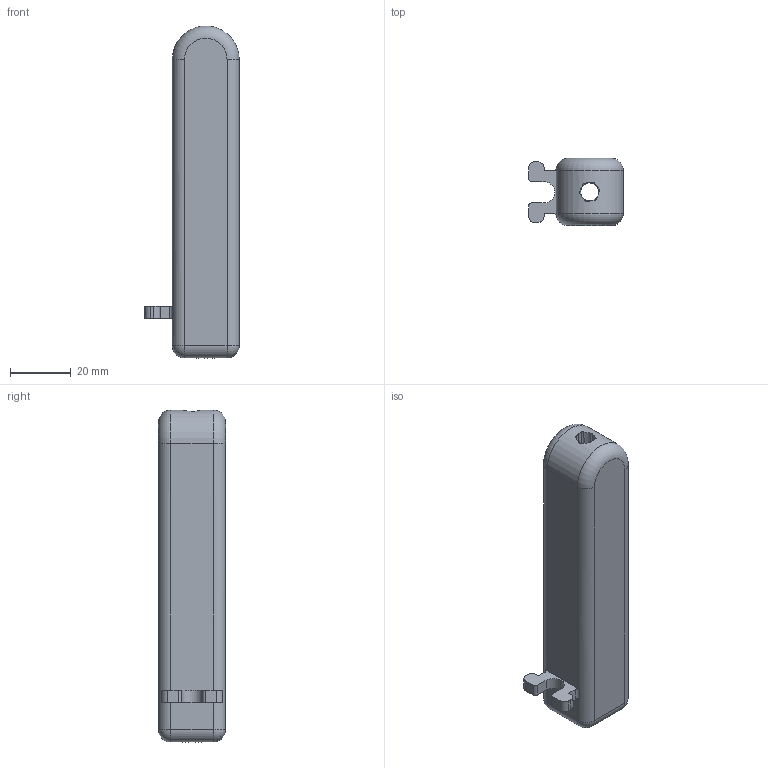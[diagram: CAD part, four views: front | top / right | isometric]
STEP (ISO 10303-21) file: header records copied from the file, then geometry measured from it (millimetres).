
FILE_DESCRIPTION((''),'2;1');
FILE_NAME('C:\Users\JamesRPatrick\Documents\Autodesk\PM422\STEP2.0\PM422Barrel2v3.stp','2015-08-22T19:08:37',('JamesRPatrick'),(''),'Autodesk Inventor 2012','Autodesk Inventor 2012','');
FILE_SCHEMA(('AUTOMOTIVE_DESIGN { 1 0 10303 214 1 1 1 1 }'));
Length unit declared in the file: millimetre
Products named in the file (1): PM422Barrel2v3
Bounding box: 31 x 22 x 109 mm (x, y, z)
Volume: 46795.4 mm3; surface area: 11844.6 mm2
Topology: 1 solids, 1 shells, 69 faces, 178 edges, 110 vertices
Faces by surface type: cylinder 24, plane 24, bspline 15, sphere 4, torus 2
Entity records: 2971 total; most frequent: CARTESIAN_POINT 1402, ORIENTED_EDGE 350, DIRECTION 280, EDGE_CURVE 175, AXIS2_PLACEMENT_3D 109, VERTEX_POINT 108, EDGE_LOOP 71, FACE_OUTER_BOUND 69
